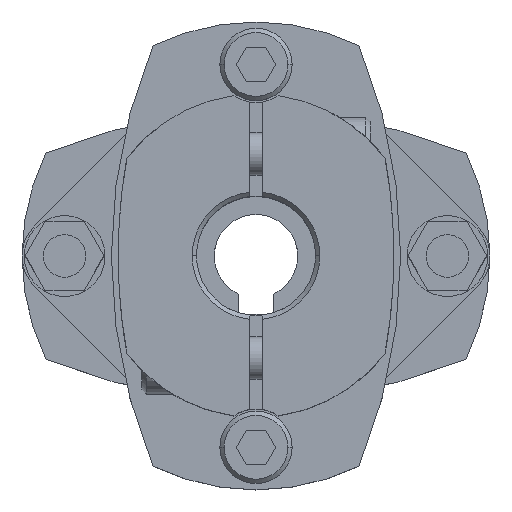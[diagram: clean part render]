
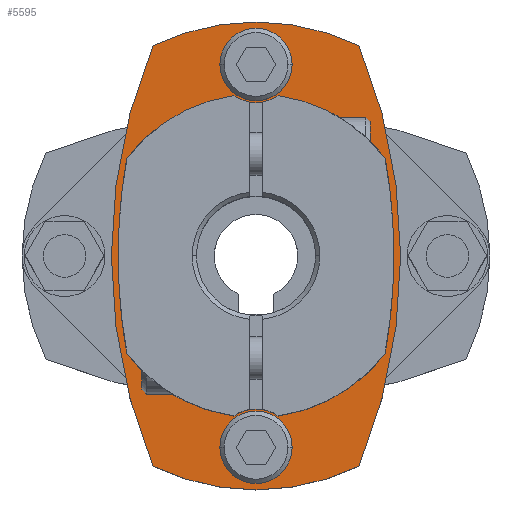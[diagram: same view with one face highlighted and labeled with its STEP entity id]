
A CAD part, top view. The second image highlights one B-rep face of the part: STEP entity #5595.
In plain terms, the highlighted planar face has unit normal (0, 0, 1).
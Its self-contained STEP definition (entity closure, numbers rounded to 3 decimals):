
#773=CARTESIAN_POINT('',(-17.,0.,8.4));
#774=VERTEX_POINT('',#773);
#790=CARTESIAN_POINT('',(-12.133,-24.679,8.4));
#791=VERTEX_POINT('',#790);
#798=CARTESIAN_POINT('',(48.,0.,8.4));
#799=DIRECTION('',(0.0,0.0,-1.0));
#800=DIRECTION('',(-1.0,0.0,0.0));
#801=AXIS2_PLACEMENT_3D('',#798,#799,#800);
#802=CIRCLE('',#801,65.);
#803=EDGE_CURVE('',#791,#774,#802,.T.);
#813=CARTESIAN_POINT('',(17.,0.,8.4));
#814=VERTEX_POINT('',#813);
#823=CARTESIAN_POINT('',(12.133,-24.679,8.4));
#824=VERTEX_POINT('',#823);
#825=CARTESIAN_POINT('',(-48.,0.,8.4));
#826=DIRECTION('',(0.0,0.0,-1.0));
#827=DIRECTION('',(-1.0,0.0,0.0));
#828=AXIS2_PLACEMENT_3D('',#825,#826,#827);
#829=CIRCLE('',#828,65.);
#830=EDGE_CURVE('',#814,#824,#829,.T.);
#1081=CARTESIAN_POINT('',(-4.25,-22.5,8.4));
#1082=VERTEX_POINT('',#1081);
#1091=CARTESIAN_POINT('',(4.25,-22.5,8.4));
#1092=VERTEX_POINT('',#1091);
#1093=CARTESIAN_POINT('',(0.,-22.5,8.4));
#1094=DIRECTION('',(0.0,0.0,-1.0));
#1095=DIRECTION('',(-1.0,0.0,0.0));
#1096=AXIS2_PLACEMENT_3D('',#1093,#1094,#1095);
#1097=CIRCLE('',#1096,4.25);
#1098=EDGE_CURVE('',#1092,#1082,#1097,.T.);
#1155=CARTESIAN_POINT('',(-4.25,22.5,8.4));
#1156=VERTEX_POINT('',#1155);
#1165=CARTESIAN_POINT('',(4.25,22.5,8.4));
#1166=VERTEX_POINT('',#1165);
#1167=CARTESIAN_POINT('',(0.,22.5,8.4));
#1168=DIRECTION('',(0.0,0.0,-1.0));
#1169=DIRECTION('',(-1.0,0.0,0.0));
#1170=AXIS2_PLACEMENT_3D('',#1167,#1168,#1169);
#1171=CIRCLE('',#1170,4.25);
#1172=EDGE_CURVE('',#1166,#1156,#1171,.T.);
#1229=CARTESIAN_POINT('',(-16.2,0.,8.4));
#1230=VERTEX_POINT('',#1229);
#1239=CARTESIAN_POINT('',(-15.173,-11.435,8.4));
#1240=VERTEX_POINT('',#1239);
#1241=CARTESIAN_POINT('',(48.,0.,8.4));
#1242=DIRECTION('',(0.0,0.0,-1.0));
#1243=DIRECTION('',(-1.0,0.0,0.0));
#1244=AXIS2_PLACEMENT_3D('',#1241,#1242,#1243);
#1245=CIRCLE('',#1244,64.2);
#1246=EDGE_CURVE('',#1240,#1230,#1245,.T.);
#1365=CARTESIAN_POINT('',(16.2,0.,8.4));
#1366=VERTEX_POINT('',#1365);
#1466=CARTESIAN_POINT('',(15.173,-11.435,8.4));
#1467=VERTEX_POINT('',#1466);
#1474=CARTESIAN_POINT('',(-48.,0.,8.4));
#1475=DIRECTION('',(0.0,0.0,-1.0));
#1476=DIRECTION('',(-1.0,0.0,0.0));
#1477=AXIS2_PLACEMENT_3D('',#1474,#1475,#1476);
#1478=CIRCLE('',#1477,64.2);
#1479=EDGE_CURVE('',#1366,#1467,#1478,.T.);
#4556=CARTESIAN_POINT('',(15.173,11.435,8.4));
#4557=VERTEX_POINT('',#4556);
#4558=CARTESIAN_POINT('',(-48.,0.,8.4));
#4559=DIRECTION('',(0.0,0.0,-1.0));
#4560=DIRECTION('',(-1.0,0.0,0.0));
#4561=AXIS2_PLACEMENT_3D('',#4558,#4559,#4560);
#4562=CIRCLE('',#4561,64.2);
#4563=EDGE_CURVE('',#4557,#1366,#4562,.T.);
#4668=CARTESIAN_POINT('',(-15.173,11.435,8.4));
#4669=VERTEX_POINT('',#4668);
#4676=CARTESIAN_POINT('',(48.,0.,8.4));
#4677=DIRECTION('',(0.0,0.0,-1.0));
#4678=DIRECTION('',(-1.0,0.0,0.0));
#4679=AXIS2_PLACEMENT_3D('',#4676,#4677,#4678);
#4680=CIRCLE('',#4679,64.2);
#4681=EDGE_CURVE('',#1230,#4669,#4680,.T.);
#4718=CARTESIAN_POINT('',(0.,22.5,8.4));
#4719=DIRECTION('',(0.0,0.0,-1.0));
#4720=DIRECTION('',(-1.0,0.0,0.0));
#4721=AXIS2_PLACEMENT_3D('',#4718,#4719,#4720);
#4722=CIRCLE('',#4721,4.25);
#4723=EDGE_CURVE('',#1156,#1166,#4722,.T.);
#4820=CARTESIAN_POINT('',(0.,-22.5,8.4));
#4821=DIRECTION('',(0.0,0.0,-1.0));
#4822=DIRECTION('',(-1.0,0.0,0.0));
#4823=AXIS2_PLACEMENT_3D('',#4820,#4821,#4822);
#4824=CIRCLE('',#4823,4.25);
#4825=EDGE_CURVE('',#1082,#1092,#4824,.T.);
#5255=CARTESIAN_POINT('',(2.593,-18.822,8.4));
#5256=VERTEX_POINT('',#5255);
#5272=CARTESIAN_POINT('',(-2.593,-18.822,8.4));
#5273=VERTEX_POINT('',#5272);
#5280=CARTESIAN_POINT('',(0.,-22.5,8.4));
#5281=DIRECTION('',(0.0,0.0,1.0));
#5282=DIRECTION('',(-1.0,0.0,0.0));
#5283=AXIS2_PLACEMENT_3D('',#5280,#5281,#5282);
#5284=CIRCLE('',#5283,4.5);
#5285=EDGE_CURVE('',#5256,#5273,#5284,.T.);
#5405=CARTESIAN_POINT('',(-2.593,18.822,8.4));
#5406=VERTEX_POINT('',#5405);
#5422=CARTESIAN_POINT('',(2.593,18.822,8.4));
#5423=VERTEX_POINT('',#5422);
#5430=CARTESIAN_POINT('',(0.,22.5,8.4));
#5431=DIRECTION('',(0.0,0.0,1.0));
#5432=DIRECTION('',(-1.0,0.0,0.0));
#5433=AXIS2_PLACEMENT_3D('',#5430,#5431,#5432);
#5434=CIRCLE('',#5433,4.5);
#5435=EDGE_CURVE('',#5406,#5423,#5434,.T.);
#5506=CARTESIAN_POINT('',(0.,0.,8.4));
#5507=DIRECTION('',(0.0,0.0,-1.0));
#5508=DIRECTION('',(-1.0,0.0,0.0));
#5509=AXIS2_PLACEMENT_3D('',#5506,#5507,#5508);
#5510=CIRCLE('',#5509,19.);
#5511=EDGE_CURVE('',#5273,#1240,#5510,.T.);
#5516=CARTESIAN_POINT('',(0.,0.,8.4));
#5517=DIRECTION('',(0.0,0.0,1.0));
#5518=DIRECTION('',(-1.0,0.0,0.0));
#5519=AXIS2_PLACEMENT_3D('',#5516,#5517,#5518);
#5520=PLANE('',#5519);
#5521=CARTESIAN_POINT('',(12.133,24.679,8.4));
#5522=VERTEX_POINT('',#5521);
#5523=CARTESIAN_POINT('',(-48.,0.,8.4));
#5524=DIRECTION('',(0.0,0.0,-1.0));
#5525=DIRECTION('',(-1.0,0.0,0.0));
#5526=AXIS2_PLACEMENT_3D('',#5523,#5524,#5525);
#5527=CIRCLE('',#5526,65.);
#5528=EDGE_CURVE('',#5522,#814,#5527,.T.);
#5529=ORIENTED_EDGE('',*,*,#5528,.F.);
#5530=CARTESIAN_POINT('',(-12.133,24.679,8.4));
#5531=VERTEX_POINT('',#5530);
#5532=CARTESIAN_POINT('',(0.,0.,8.4));
#5533=DIRECTION('',(0.0,0.0,-1.0));
#5534=DIRECTION('',(-1.0,0.0,0.0));
#5535=AXIS2_PLACEMENT_3D('',#5532,#5533,#5534);
#5536=CIRCLE('',#5535,27.5);
#5537=EDGE_CURVE('',#5531,#5522,#5536,.T.);
#5538=ORIENTED_EDGE('',*,*,#5537,.F.);
#5539=CARTESIAN_POINT('',(48.,0.,8.4));
#5540=DIRECTION('',(0.0,0.0,-1.0));
#5541=DIRECTION('',(-1.0,0.0,0.0));
#5542=AXIS2_PLACEMENT_3D('',#5539,#5540,#5541);
#5543=CIRCLE('',#5542,65.);
#5544=EDGE_CURVE('',#774,#5531,#5543,.T.);
#5545=ORIENTED_EDGE('',*,*,#5544,.F.);
#5546=ORIENTED_EDGE('',*,*,#803,.F.);
#5547=CARTESIAN_POINT('',(0.,0.,8.4));
#5548=DIRECTION('',(0.0,0.0,-1.0));
#5549=DIRECTION('',(-1.0,0.0,0.0));
#5550=AXIS2_PLACEMENT_3D('',#5547,#5548,#5549);
#5551=CIRCLE('',#5550,27.5);
#5552=EDGE_CURVE('',#824,#791,#5551,.T.);
#5553=ORIENTED_EDGE('',*,*,#5552,.F.);
#5554=ORIENTED_EDGE('',*,*,#830,.F.);
#5555=EDGE_LOOP('',(#5529,#5538,#5545,#5546,#5553,#5554));
#5556=FACE_OUTER_BOUND('',#5555,.T.);
#5557=ORIENTED_EDGE('',*,*,#4825,.T.);
#5558=ORIENTED_EDGE('',*,*,#1098,.T.);
#5559=EDGE_LOOP('',(#5557,#5558));
#5560=FACE_BOUND('',#5559,.T.);
#5561=ORIENTED_EDGE('',*,*,#4723,.T.);
#5562=ORIENTED_EDGE('',*,*,#1172,.T.);
#5563=EDGE_LOOP('',(#5561,#5562));
#5564=FACE_BOUND('',#5563,.T.);
#5565=ORIENTED_EDGE('',*,*,#5511,.T.);
#5566=ORIENTED_EDGE('',*,*,#1246,.T.);
#5567=ORIENTED_EDGE('',*,*,#4681,.T.);
#5568=CARTESIAN_POINT('',(0.,0.,8.4));
#5569=DIRECTION('',(0.0,0.0,-1.0));
#5570=DIRECTION('',(-1.0,0.0,0.0));
#5571=AXIS2_PLACEMENT_3D('',#5568,#5569,#5570);
#5572=CIRCLE('',#5571,19.);
#5573=EDGE_CURVE('',#4669,#5406,#5572,.T.);
#5574=ORIENTED_EDGE('',*,*,#5573,.T.);
#5575=ORIENTED_EDGE('',*,*,#5435,.T.);
#5576=CARTESIAN_POINT('',(0.,0.,8.4));
#5577=DIRECTION('',(0.0,0.0,-1.0));
#5578=DIRECTION('',(-1.0,0.0,0.0));
#5579=AXIS2_PLACEMENT_3D('',#5576,#5577,#5578);
#5580=CIRCLE('',#5579,19.);
#5581=EDGE_CURVE('',#5423,#4557,#5580,.T.);
#5582=ORIENTED_EDGE('',*,*,#5581,.T.);
#5583=ORIENTED_EDGE('',*,*,#4563,.T.);
#5584=ORIENTED_EDGE('',*,*,#1479,.T.);
#5585=CARTESIAN_POINT('',(0.,0.,8.4));
#5586=DIRECTION('',(0.0,0.0,-1.0));
#5587=DIRECTION('',(-1.0,0.0,0.0));
#5588=AXIS2_PLACEMENT_3D('',#5585,#5586,#5587);
#5589=CIRCLE('',#5588,19.);
#5590=EDGE_CURVE('',#1467,#5256,#5589,.T.);
#5591=ORIENTED_EDGE('',*,*,#5590,.T.);
#5592=ORIENTED_EDGE('',*,*,#5285,.T.);
#5593=EDGE_LOOP('',(#5565,#5566,#5567,#5574,#5575,#5582,#5583,#5584,#5591,#5592));
#5594=FACE_BOUND('',#5593,.T.);
#5595=ADVANCED_FACE('',(#5556,#5560,#5564,#5594),#5520,.T.);
